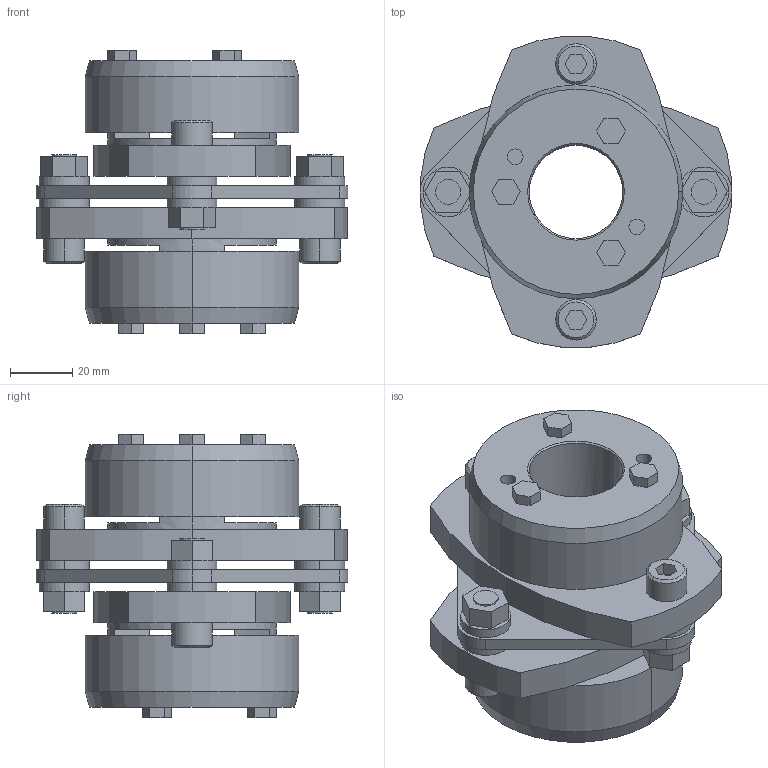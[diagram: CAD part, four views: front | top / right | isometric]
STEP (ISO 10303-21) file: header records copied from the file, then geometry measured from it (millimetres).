
FILE_DESCRIPTION((''),'2;1');
FILE_NAME('LCS-100T7-30×30.stp','2011-09-08T17:19:47',(''),(''),'AutoCAD STEP 2000i','AutoCAD 2000i',', , ');
FILE_SCHEMA(('CONFIG_CONTROL_DESIGN'));
Length unit declared in the file: millimetre
Products named in the file (9): LCS-100T7-30×30; 忣兜1; LC100T7-T030-1; LC100T7-T030; LC100T7-T025-1; LC100T7-T025; LC100T7-T022-1; LC100T7-T022; LCS100-ITA
Assembly tree (8 placements, depth 2):
  LCS-100T7-30×30
    忣兜1
    LC100T7-T030-1
    LC100T7-T030
    LC100T7-T025-1
    LC100T7-T025
    LC100T7-T022-1
    LC100T7-T022
    LCS100-ITA
Bounding box: 100 x 99.93 x 91 mm (x, y, z)
Volume: 266805.2 mm3; surface area: 64983.6 mm2
Topology: 1 solids, 1 shells, 232 faces, 568 edges, 372 vertices
Faces by surface type: plane 132, cylinder 80, cone 20
Entity records: 7091 total; most frequent: DIRECTION 1246, CARTESIAN_POINT 1181, ORIENTED_EDGE 1136, EDGE_CURVE 568, AXIS2_PLACEMENT_3D 437, VERTEX_POINT 372, VECTOR 372, LINE 372
